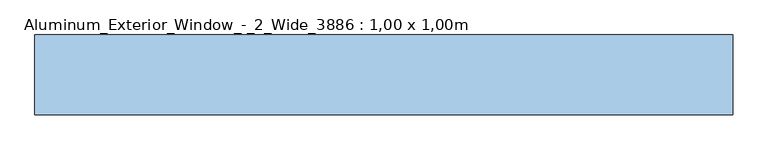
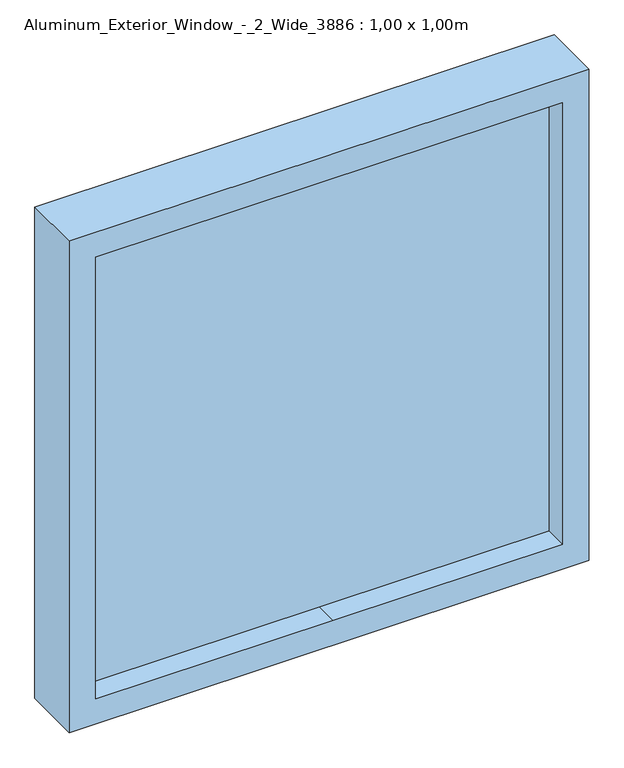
"""IFC4 building model written with IfcOpenShell, lengths in millimetres: window geometry, Aluminum_Exterior_Window_-_2_Wide_3886 : 1,00 x 1,00m."""

from ifc_helpers import new_model, si_unit, frame, origin, place, context, project, spatial, polyline, outline, extrude, source, transform, mapped, element, save


def aluminum_exterior_window_2_wide_3886_1_00_x_1_00m_4173611b(model_context):
    return source(origin(), model_context, "Body", "SweptSolid", [
        extrude(outline(polyline([(2060.0, -1371.6), (1060.0, -1371.6), (1060.0, -371.6), (2060.0, -371.6), (2060.0, -1371.6)]), holes=[polyline([(2009.2, -897.0), (2009.2, -422.4), (1110.8, -422.4), (1110.8, -863.8808837), (1110.8, -1320.8), (2009.2, -1320.8), (2009.2, -897.0)])]), frame((0.0, -38.1424754, 0.0), z_axis=(0.0, 1.0, 0.0), x_axis=(0.0, 0.0, 1.0)), (0.0, 0.0, 1.0), 114.3),
        extrude(outline(polyline([(2009.2, -897.0), (2009.2, -1320.8), (1110.8, -1320.8), (1110.8, -870.891469), (1110.8, -422.4), (2009.2, -422.4), (2009.2, -897.0)])), frame((0.0, 6.3075246, 0.0), z_axis=(0.0, 1.0, 0.0), x_axis=(0.0, 0.0, 1.0)), (0.0, 0.0, 1.0), 25.4),
    ])


if __name__ == "__main__":
    model = new_model("IFC4")
    model_context = context("Model", 3, world=origin())
    ifc_project = project(units=[si_unit("LENGTHUNIT", "METRE", prefix="MILLI")], contexts=[model_context])
    site = spatial("IfcSite", under=ifc_project)
    building = spatial("IfcBuilding", under=site)
    placement = place(None, origin())
    aluminum_exterior_window_2_wide_3886_1_00_x_1_00m_shape = aluminum_exterior_window_2_wide_3886_1_00_x_1_00m_4173611b(model_context)
    element("IfcWindow", 1, ObjectType="Aluminum_Exterior_Window_-_2_Wide_3886 : 1,00 x 1,00m", at=placement, inside=building, context=model_context, shape_type="MappedRepresentation", body=[
        mapped(aluminum_exterior_window_2_wide_3886_1_00_x_1_00m_shape, transform((0.0, 0.0, 0.0), x_axis=(1.0, 0.0, 0.0), y_axis=(0.0, 1.0, 0.0), z_axis=(0.0, 0.0, 1.0))),
    ])
    save(model, "model.ifc")
